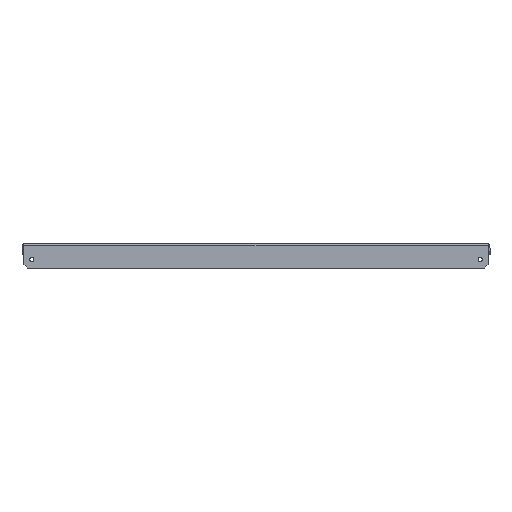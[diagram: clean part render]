
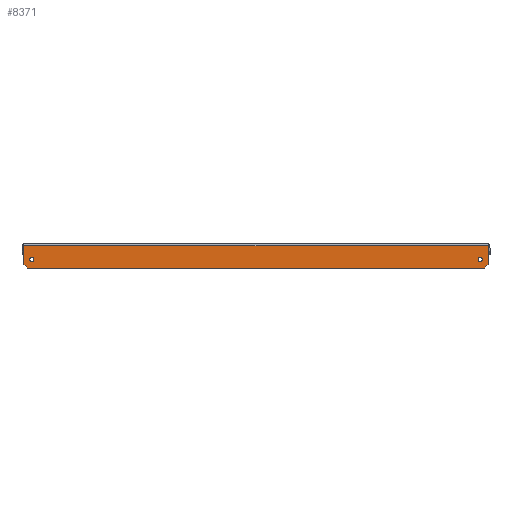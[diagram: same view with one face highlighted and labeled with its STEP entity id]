
A CAD part, left-side view. The second image highlights one B-rep face of the part: STEP entity #8371.
In plain terms, the highlighted planar face has unit normal (-1, 0, 0).
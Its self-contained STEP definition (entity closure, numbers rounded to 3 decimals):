
#56 = CARTESIAN_POINT ( 'NONE',  ( -148.5, -161.75, -161.75 ) ) ;
#465 = ORIENTED_EDGE ( 'NONE', *, *, #14024, .F. ) ;
#509 = ORIENTED_EDGE ( 'NONE', *, *, #16303, .T. ) ;
#526 = DIRECTION ( 'NONE',  ( 0., -0.707, -0.707 ) ) ;
#1182 = CARTESIAN_POINT ( 'NONE',  ( -148.5, 297.5, -1.5 ) ) ;
#1450 = VERTEX_POINT ( 'NONE', #18782 ) ;
#1588 = VERTEX_POINT ( 'NONE', #6673 ) ;
#1736 = CARTESIAN_POINT ( 'NONE',  ( -148.5, 287.5, -20. ) ) ;
#2404 = LINE ( 'NONE', #8667, #16405 ) ;
#2682 = VERTEX_POINT ( 'NONE', #12214 ) ;
#2710 = DIRECTION ( 'NONE',  ( 0., 1., 0. ) ) ;
#2850 = DIRECTION ( 'NONE',  ( 0., 0., 1. ) ) ;
#2920 = CARTESIAN_POINT ( 'NONE',  ( -148.5, 0., -2.5 ) ) ;
#3189 = DIRECTION ( 'NONE',  ( -1., 0., 0. ) ) ;
#3236 = LINE ( 'NONE', #14413, #20617 ) ;
#3293 = CARTESIAN_POINT ( 'NONE',  ( -148.5, 0., 0. ) ) ;
#3393 = DIRECTION ( 'NONE',  ( 0., -0.707, 0.707 ) ) ;
#3402 = FACE_OUTER_BOUND ( 'NONE', #9106, .T. ) ;
#3611 = FACE_BOUND ( 'NONE', #4024, .T. ) ;
#4024 = EDGE_LOOP ( 'NONE', ( #6998 ) ) ;
#4089 = AXIS2_PLACEMENT_3D ( 'NONE', #9136, #7572, #6118 ) ;
#4494 = CARTESIAN_POINT ( 'NONE',  ( -148.5, -287.5, -17.25 ) ) ;
#4839 = LINE ( 'NONE', #1182, #18547 ) ;
#4858 = DIRECTION ( 'NONE',  ( -1., 0., 0. ) ) ;
#5245 = VECTOR ( 'NONE', #14306, 1000. ) ;
#5656 = VERTEX_POINT ( 'NONE', #7116 ) ;
#6118 = DIRECTION ( 'NONE',  ( 0., 0., 1. ) ) ;
#6294 = EDGE_CURVE ( 'NONE', #10982, #1450, #3236, .T. ) ;
#6673 = CARTESIAN_POINT ( 'NONE',  ( -148.5, -297.5, -2.5 ) ) ;
#6998 = ORIENTED_EDGE ( 'NONE', *, *, #7177, .F. ) ;
#7116 = CARTESIAN_POINT ( 'NONE',  ( -148.5, 287.5, -17.25 ) ) ;
#7177 = EDGE_CURVE ( 'NONE', #5656, #5656, #7260, .T. ) ;
#7260 = CIRCLE ( 'NONE', #17885, 2.75 ) ;
#7426 = ORIENTED_EDGE ( 'NONE', *, *, #6294, .T. ) ;
#7572 = DIRECTION ( 'NONE',  ( 1., 0., 0. ) ) ;
#8371 = ADVANCED_FACE ( 'NONE', ( #12802, #3611, #3402 ), #9765, .T. ) ;
#8667 = CARTESIAN_POINT ( 'NONE',  ( -148.5, 297.5, -31. ) ) ;
#9075 = VECTOR ( 'NONE', #3393, 1000. ) ;
#9106 = EDGE_LOOP ( 'NONE', ( #16318, #7426, #465, #509, #13517, #14028 ) ) ;
#9136 = CARTESIAN_POINT ( 'NONE',  ( -148.5, -287.5, -20. ) ) ;
#9148 = DIRECTION ( 'NONE',  ( 0., 0., -1. ) ) ;
#9151 = CARTESIAN_POINT ( 'NONE',  ( -148.5, -292.5, -31. ) ) ;
#9440 = EDGE_CURVE ( 'NONE', #15975, #15975, #18095, .T. ) ;
#9655 = DIRECTION ( 'NONE',  ( 0., 0., 1. ) ) ;
#9765 = PLANE ( 'NONE',  #18064 ) ;
#10197 = EDGE_CURVE ( 'NONE', #10982, #2682, #4839, .T. ) ;
#10982 = VERTEX_POINT ( 'NONE', #13771 ) ;
#11142 = CARTESIAN_POINT ( 'NONE',  ( -148.5, -297.5, -31. ) ) ;
#11539 = LINE ( 'NONE', #56, #9075 ) ;
#12214 = CARTESIAN_POINT ( 'NONE',  ( -148.5, 297.5, -2.5 ) ) ;
#12636 = LINE ( 'NONE', #2920, #5245 ) ;
#12802 = FACE_BOUND ( 'NONE', #14172, .T. ) ;
#13517 = ORIENTED_EDGE ( 'NONE', *, *, #17045, .F. ) ;
#13771 = CARTESIAN_POINT ( 'NONE',  ( -148.5, 297.5, -26. ) ) ;
#14024 = EDGE_CURVE ( 'NONE', #19954, #1450, #2404, .T. ) ;
#14028 = ORIENTED_EDGE ( 'NONE', *, *, #19615, .T. ) ;
#14172 = EDGE_LOOP ( 'NONE', ( #15927 ) ) ;
#14306 = DIRECTION ( 'NONE',  ( 0., 1., 0. ) ) ;
#14413 = CARTESIAN_POINT ( 'NONE',  ( -148.5, 161.75, -161.75 ) ) ;
#14772 = CARTESIAN_POINT ( 'NONE',  ( -148.5, -297.5, -26. ) ) ;
#15831 = LINE ( 'NONE', #11142, #19168 ) ;
#15927 = ORIENTED_EDGE ( 'NONE', *, *, #9440, .T. ) ;
#15975 = VERTEX_POINT ( 'NONE', #4494 ) ;
#16303 = EDGE_CURVE ( 'NONE', #19954, #18890, #11539, .T. ) ;
#16318 = ORIENTED_EDGE ( 'NONE', *, *, #10197, .F. ) ;
#16405 = VECTOR ( 'NONE', #2710, 1000. ) ;
#17045 = EDGE_CURVE ( 'NONE', #1588, #18890, #15831, .T. ) ;
#17487 = DIRECTION ( 'NONE',  ( 0., 0., 1. ) ) ;
#17885 = AXIS2_PLACEMENT_3D ( 'NONE', #1736, #4858, #9655 ) ;
#18064 = AXIS2_PLACEMENT_3D ( 'NONE', #3293, #3189, #17487 ) ;
#18095 = CIRCLE ( 'NONE', #4089, 2.75 ) ;
#18547 = VECTOR ( 'NONE', #2850, 1000. ) ;
#18782 = CARTESIAN_POINT ( 'NONE',  ( -148.5, 292.5, -31. ) ) ;
#18890 = VERTEX_POINT ( 'NONE', #14772 ) ;
#19168 = VECTOR ( 'NONE', #9148, 1000. ) ;
#19615 = EDGE_CURVE ( 'NONE', #1588, #2682, #12636, .T. ) ;
#19954 = VERTEX_POINT ( 'NONE', #9151 ) ;
#20617 = VECTOR ( 'NONE', #526, 1000. ) ;
